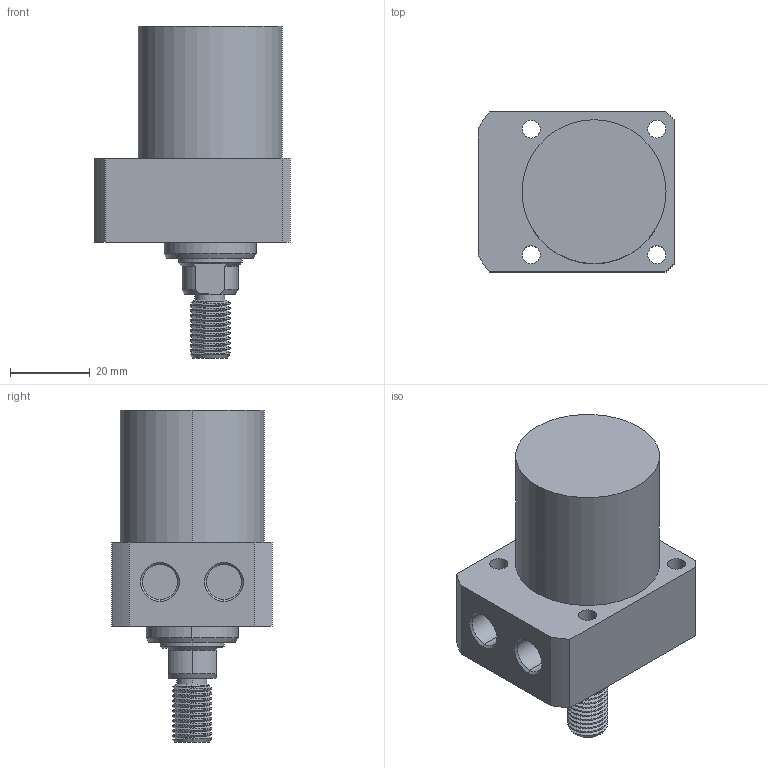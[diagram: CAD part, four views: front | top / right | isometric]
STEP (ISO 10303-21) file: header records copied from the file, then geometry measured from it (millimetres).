
FILE_DESCRIPTION (( 'STEP AP214' ), '1' );
FILE_NAME ('CLLR-036CT-025.STEP', '2020-01-08T10:17:32', ( 'Windows' ), ( 'Microsoft' ), 'SwSTEP 2.0', 'SolidWorks 2015', '' );
FILE_SCHEMA (( 'AUTOMOTIVE_DESIGN' ));
Length unit declared in the file: millimetre
Products named in the file (1): CLLR-036CT-025
Bounding box: 49 x 40 x 83 mm (x, y, z)
Volume: 75604.5 mm3; surface area: 14396.7 mm2
Topology: 1 solids, 1 shells, 89 faces, 223 edges, 144 vertices
Faces by surface type: cylinder 51, plane 21, cone 15, bspline 2
Entity records: 3960 total; most frequent: CARTESIAN_POINT 1826, ORIENTED_EDGE 446, DIRECTION 419, EDGE_CURVE 223, AXIS2_PLACEMENT_3D 164, VERTEX_POINT 144, EDGE_LOOP 105, VECTOR 91
